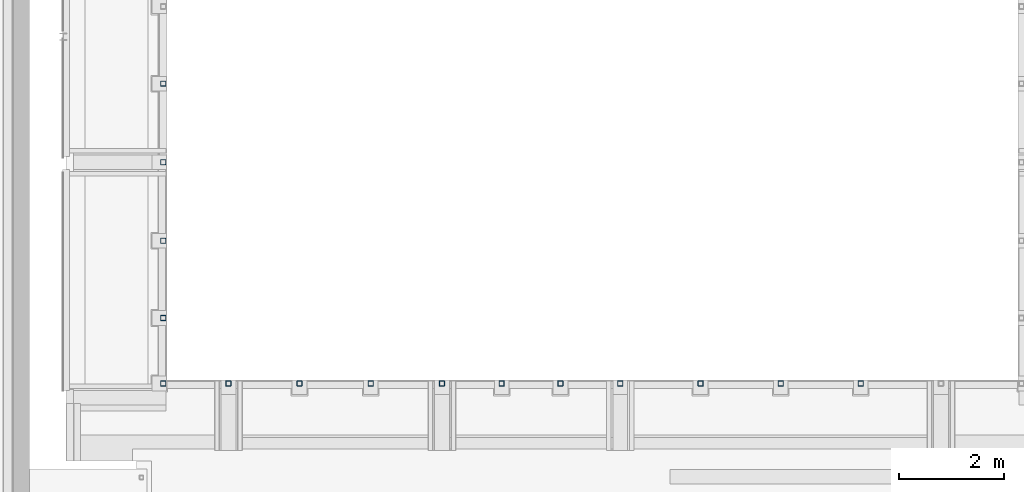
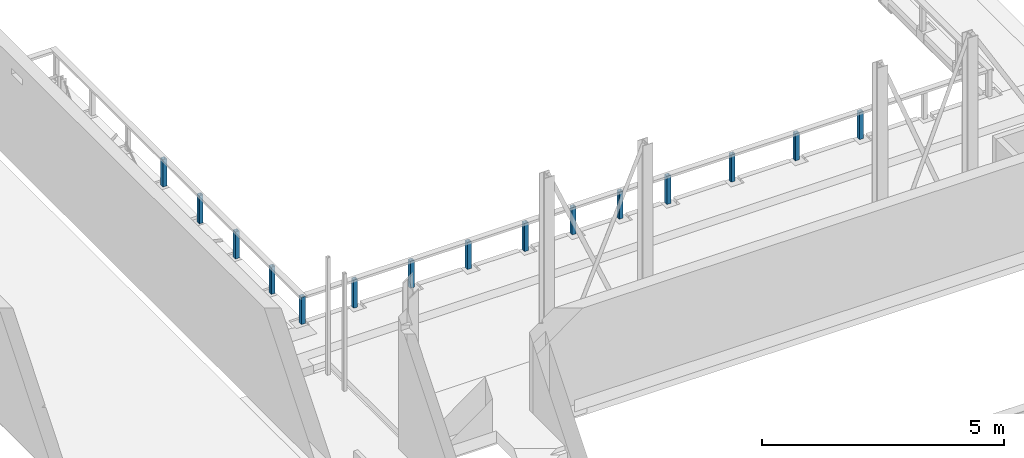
# One storey, part 10 of 68: 15 columns.
"""IFC2X3 building model written with IfcOpenShell, lengths in millimetres."""

from ifc_helpers import new_model, entity, si_unit, converted_unit, derived_unit, direction, frame, frame_2d, origin, place, context, subcontext, project, spatial, polyline, circle_curve, parameter, trimmed, segment, composite_curve, outline, extrude, source, transform, mapped, material, type_object, type_shapes, element, save


model = new_model("IFC2X3")

# Units and contexts
model_context = context("Model", 3, precision=0.01, world=origin(), true_north=direction((6.12303176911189e-17, 1.0)))
body_context = subcontext(model_context, "Body", "Model", "MODEL_VIEW")
ifc_project = project(units=[si_unit("LENGTHUNIT", "METRE", prefix="MILLI"), si_unit("AREAUNIT", "SQUARE_METRE", prefix="MILLI"), si_unit("VOLUMEUNIT", "CUBIC_METRE"), converted_unit("PLANEANGLEUNIT", "DEGREE", entity("IfcRatioMeasure", 0.0174532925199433), si_unit("PLANEANGLEUNIT", "RADIAN"), dimensions=[0, 0, 0, 0, 0, 0, 0]), si_unit("MASSUNIT", "GRAM", prefix="KILO"), derived_unit("MASSDENSITYUNIT", [(si_unit("MASSUNIT", "GRAM", prefix="KILO"), 1), (si_unit("LENGTHUNIT", "METRE"), -3)]), derived_unit("MOMENTOFINERTIAUNIT", [(si_unit("LENGTHUNIT", "METRE"), 4)]), si_unit("TIMEUNIT", "SECOND"), si_unit("FREQUENCYUNIT", "HERTZ"), si_unit("THERMODYNAMICTEMPERATUREUNIT", "DEGREE_CELSIUS"), derived_unit("THERMALTRANSMITTANCEUNIT", [(si_unit("MASSUNIT", "GRAM", prefix="KILO"), 1), (si_unit("THERMODYNAMICTEMPERATUREUNIT", "KELVIN"), -1), (si_unit("TIMEUNIT", "SECOND"), -3)]), derived_unit("VOLUMETRICFLOWRATEUNIT", [(si_unit("LENGTHUNIT", "METRE"), 3), (si_unit("TIMEUNIT", "SECOND"), -1)]), si_unit("ELECTRICCURRENTUNIT", "AMPERE"), si_unit("ELECTRICVOLTAGEUNIT", "VOLT"), si_unit("POWERUNIT", "WATT"), si_unit("FORCEUNIT", "NEWTON", prefix="KILO"), si_unit("ILLUMINANCEUNIT", "LUX"), si_unit("LUMINOUSFLUXUNIT", "LUMEN"), si_unit("LUMINOUSINTENSITYUNIT", "CANDELA"), derived_unit("USERDEFINED", [(si_unit("MASSUNIT", "GRAM", prefix="KILO"), -1), (si_unit("LENGTHUNIT", "METRE"), -2), (si_unit("TIMEUNIT", "SECOND"), 3), (si_unit("LUMINOUSFLUXUNIT", "LUMEN"), 1)]), derived_unit("LINEARVELOCITYUNIT", [(si_unit("LENGTHUNIT", "METRE"), 1), (si_unit("TIMEUNIT", "SECOND"), -1)]), si_unit("PRESSUREUNIT", "PASCAL"), derived_unit("USERDEFINED", [(si_unit("LENGTHUNIT", "METRE"), -2), (si_unit("MASSUNIT", "GRAM", prefix="KILO"), 1), (si_unit("TIMEUNIT", "SECOND"), -2)]), derived_unit("LINEARFORCEUNIT", [(si_unit("MASSUNIT", "GRAM", prefix="KILO"), 1), (si_unit("LENGTHUNIT", "METRE"), 1), (si_unit("TIMEUNIT", "SECOND"), -2), (si_unit("LENGTHUNIT", "METRE"), -1)]), derived_unit("PLANARFORCEUNIT", [(si_unit("MASSUNIT", "GRAM", prefix="KILO"), 1), (si_unit("LENGTHUNIT", "METRE"), 1), (si_unit("TIMEUNIT", "SECOND"), -2), (si_unit("LENGTHUNIT", "METRE"), -2)])], contexts=[model_context])

# Site, building, storey
site_placement = place(None, origin())
site = spatial("IfcSite", under=ifc_project, at=site_placement, Name="Theater aan de Parade", CompositionType="ELEMENT")
building_placement = place(site_placement, origin())
building = spatial("IfcBuilding", under=site, at=building_placement, Name="Theater aan de Parade", CompositionType="ELEMENT")
storey_placement = place(building_placement, frame((0.0, 0.0, 8750.0)))
storey = spatial("IfcBuildingStorey", under=building, at=storey_placement, Name="02 tweede verdieping", CompositionType="ELEMENT", Elevation=8750.0)

# Columns
ifc_material = material(Name="00_PBT_MAT_staal_S355")
column_type_1 = type_object("IfcColumnType", Name="28_PBT_SC_staal_koker:S355_K100x100x5", PredefinedType="COLUMN", material=ifc_material)
shared_shape_1 = source(origin(), body_context, "Body", "SweptSolid", [
    extrude(outline(composite_curve([segment(trimmed(circle_curve(frame_2d((-42.5, -42.5), x_axis=(1.0, 0.0)), 7.5), [parameter(180.0)], [parameter(270.0)], True, "PARAMETER"), True, "CONTINUOUS"), segment(polyline([(-42.5, -50.0), (42.5, -50.0)]), True, "CONTINUOUS"), segment(trimmed(circle_curve(frame_2d((42.5, -42.5), x_axis=(1.0, 0.0)), 7.5), [parameter(270.0)], [parameter(0.0)], True, "PARAMETER"), True, "CONTINUOUS"), segment(polyline([(50.0, -42.5), (50.0, 42.5)]), True, "CONTINUOUS"), segment(trimmed(circle_curve(frame_2d((42.5, 42.5), x_axis=(1.0, 0.0)), 7.5), [parameter(3.56222124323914e-13)], [parameter(90.0000000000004)], True, "PARAMETER"), True, "CONTINUOUS"), segment(polyline([(42.5, 50.0), (-42.5, 50.0)]), True, "CONTINUOUS"), segment(trimmed(circle_curve(frame_2d((-42.5, 42.5), x_axis=(1.0, 0.0)), 7.5), [parameter(90.0)], [parameter(180.0)], True, "PARAMETER"), True, "CONTINUOUS"), segment(polyline([(-50.0, 42.5), (-50.0, -42.5)]), True, "CONTINUOUS")], self_intersect=False), holes=[composite_curve([segment(trimmed(circle_curve(frame_2d((40.0, 40.0), x_axis=(1.0, 0.0)), 5.0), [parameter(0.0)], [parameter(90.0000000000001)], True, "PARAMETER"), False, "CONTINUOUS"), segment(polyline([(45.0, 40.0), (45.0, -40.0)]), True, "CONTINUOUS"), segment(trimmed(circle_curve(frame_2d((40.0, -40.0), x_axis=(1.0, 0.0)), 5.0), [parameter(269.999999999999)], [parameter(360.0)], True, "PARAMETER"), False, "CONTINUOUS"), segment(polyline([(40.0, -45.0), (-40.0, -45.0)]), True, "CONTINUOUS"), segment(trimmed(circle_curve(frame_2d((-40.0, -40.0), x_axis=(1.0, 0.0)), 5.0), [parameter(180.0)], [parameter(270.0)], True, "PARAMETER"), False, "CONTINUOUS"), segment(polyline([(-45.0, -40.0), (-45.0, 40.0)]), True, "CONTINUOUS"), segment(trimmed(circle_curve(frame_2d((-40.0, 40.0), x_axis=(1.0, 0.0)), 5.0), [parameter(89.9999999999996)], [parameter(180.0)], True, "PARAMETER"), False, "CONTINUOUS"), segment(polyline([(-40.0, 45.0), (40.0, 45.0)]), True, "CONTINUOUS")], self_intersect=False)]), frame((0.0, 0.0, 8695.0), z_axis=(0.0, 0.0, 1.0), x_axis=(-1.0, 0.0, 0.0)), (0.0, 0.0, 1.0), 708.000000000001),
])
type_shapes(column_type_1, [shared_shape_1])
column_placement = place(storey_placement, frame((17910.8570032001, 23568.2922985, -8750.0)))
element("IfcColumn", 1, at=column_placement, inside=storey, type_object=column_type_1, material=ifc_material, Name="28_PBT_SC_staal_koker:S355_K100x100x5", ObjectType="28_PBT_SC_staal_koker:S355_K100x100x5", context=body_context, shape_type="MappedRepresentation", body=[
    mapped(shared_shape_1, transform((0.0, 0.0, 0.0), scale=1.0)),
])
for number, where, z_axis, x_axis in (
    (2, (23232.8581798, 19343.3084468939, -8750.0), (0.0, 0.0, 1.0), (0.0, 1.0, 0.0)),
    (3, (19156.8570058, 19343.308446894, -8750.0), (0.0, 0.0, 1.0), (0.0, 1.0, 0.0)),
    (4, (26635.8581798, 19343.3084468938, -8750.0), (0.0, 0.0, 1.0), (0.0, 1.0, 0.0)),
):
    element("IfcColumn", number, at=place(storey_placement, frame(where, z_axis=z_axis, x_axis=x_axis)), inside=storey, type_object=column_type_1, material=ifc_material, Name="28_PBT_SC_staal_koker:S355_K100x100x5", ObjectType="28_PBT_SC_staal_koker:S355_K100x100x5", context=body_context, shape_type="MappedRepresentation", body=[
        mapped(shared_shape_1, transform((0.0, 0.0, 0.0), scale=1.0)),
    ])
column_type_2 = type_object("IfcColumnType", Name="28_PBT_SC_staal_koker:S355_K100x100x5", PredefinedType="COLUMN", material=ifc_material)
shared_shape_2 = source(origin(), body_context, "Body", "SweptSolid", [
    extrude(outline(composite_curve([segment(trimmed(circle_curve(frame_2d((-42.5, -42.5), x_axis=(1.0, 0.0)), 7.5), [parameter(180.0)], [parameter(270.0)], True, "PARAMETER"), True, "CONTINUOUS"), segment(polyline([(-42.5, -50.0), (42.5, -50.0)]), True, "CONTINUOUS"), segment(trimmed(circle_curve(frame_2d((42.5, -42.5), x_axis=(1.0, 0.0)), 7.5), [parameter(270.0)], [parameter(0.0)], True, "PARAMETER"), True, "CONTINUOUS"), segment(polyline([(50.0, -42.5), (50.0, 42.5)]), True, "CONTINUOUS"), segment(trimmed(circle_curve(frame_2d((42.5, 42.5), x_axis=(1.0, 0.0)), 7.5), [parameter(3.56222124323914e-13)], [parameter(90.0000000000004)], True, "PARAMETER"), True, "CONTINUOUS"), segment(polyline([(42.5, 50.0), (-42.5, 50.0)]), True, "CONTINUOUS"), segment(trimmed(circle_curve(frame_2d((-42.5, 42.5), x_axis=(1.0, 0.0)), 7.5), [parameter(90.0)], [parameter(180.0)], True, "PARAMETER"), True, "CONTINUOUS"), segment(polyline([(-50.0, 42.5), (-50.0, -42.5)]), True, "CONTINUOUS")], self_intersect=False), holes=[composite_curve([segment(trimmed(circle_curve(frame_2d((40.0, 40.0), x_axis=(1.0, 0.0)), 5.0), [parameter(0.0)], [parameter(90.0000000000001)], True, "PARAMETER"), False, "CONTINUOUS"), segment(polyline([(45.0, 40.0), (45.0, -40.0)]), True, "CONTINUOUS"), segment(trimmed(circle_curve(frame_2d((40.0, -40.0), x_axis=(1.0, 0.0)), 5.0), [parameter(269.999999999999)], [parameter(360.0)], True, "PARAMETER"), False, "CONTINUOUS"), segment(polyline([(40.0, -45.0), (-40.0, -45.0)]), True, "CONTINUOUS"), segment(trimmed(circle_curve(frame_2d((-40.0, -40.0), x_axis=(1.0, 0.0)), 5.0), [parameter(180.0)], [parameter(270.0)], True, "PARAMETER"), False, "CONTINUOUS"), segment(polyline([(-45.0, -40.0), (-45.0, 40.0)]), True, "CONTINUOUS"), segment(trimmed(circle_curve(frame_2d((-40.0, 40.0), x_axis=(1.0, 0.0)), 5.0), [parameter(89.9999999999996)], [parameter(180.0)], True, "PARAMETER"), False, "CONTINUOUS"), segment(polyline([(-40.0, 45.0), (40.0, 45.0)]), True, "CONTINUOUS")], self_intersect=False)]), frame((0.0, 0.0, 8720.0), z_axis=(0.0, 0.0, 1.0), x_axis=(-1.0, 0.0, 0.0)), (0.0, 0.0, 1.0), 683.000000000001),
])
type_shapes(column_type_2, [shared_shape_2])
for number, where in (
    (5, (17910.8570032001, 25068.2922985, -8750.0)),
    (6, (17910.8570032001, 22068.2922985, -8750.0)),
    (7, (17910.8570032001, 20593.2922985, -8750.0)),
    (8, (17910.8570032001, 19343.308446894, -8750.0)),
):
    element("IfcColumn", number, at=place(storey_placement, frame(where)), inside=storey, type_object=column_type_2, material=ifc_material, Name="28_PBT_SC_staal_koker:S355_K100x100x5", ObjectType="28_PBT_SC_staal_koker:S355_K100x100x5", context=body_context, shape_type="MappedRepresentation", body=[
        mapped(shared_shape_2, transform((0.0, 0.0, 0.0), scale=1.0)),
    ])
for number, where, z_axis, x_axis in (
    (9, (21872.8581798, 19343.3084468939, -8750.0), (0.0, 0.0, 1.0), (0.0, 1.0, 0.0)),
    (10, (20512.8581798, 19343.3084468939, -8750.0), (0.0, 0.0, 1.0), (0.0, 1.0, 0.0)),
    (11, (24372.8581798, 19343.3084468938, -8750.0), (0.0, 0.0, 1.0), (0.0, 1.0, 0.0)),
    (12, (25495.8581798, 19343.3084468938, -8750.0), (0.0, 0.0, 1.0), (0.0, 1.0, 0.0)),
):
    element("IfcColumn", number, at=place(storey_placement, frame(where, z_axis=z_axis, x_axis=x_axis)), inside=storey, type_object=column_type_2, material=ifc_material, Name="28_PBT_SC_staal_koker:S355_K100x100x5", ObjectType="28_PBT_SC_staal_koker:S355_K100x100x5", context=body_context, shape_type="MappedRepresentation", body=[
        mapped(shared_shape_2, transform((0.0, 0.0, 0.0), scale=1.0)),
    ])
column_type_3 = type_object("IfcColumnType", Name="28_PBT_SC_staal_koker:S355_K100x100x5", PredefinedType="COLUMN", material=ifc_material)
shared_shape_3 = source(origin(), body_context, "Body", "SweptSolid", [
    extrude(outline(composite_curve([segment(polyline([(-42.5, -50.0), (42.5, -50.0)]), True, "CONTINUOUS"), segment(trimmed(circle_curve(frame_2d((42.5, -42.5), x_axis=(0.0, 1.0)), 7.5), [parameter(180.0)], [parameter(270.0)], True, "PARAMETER"), True, "CONTINUOUS"), segment(polyline([(50.0, -42.5), (50.0, 42.5)]), True, "CONTINUOUS"), segment(trimmed(circle_curve(frame_2d((42.5, 42.5), x_axis=(0.0, 1.0)), 7.5), [parameter(270.0)], [parameter(360.0)], True, "PARAMETER"), True, "CONTINUOUS"), segment(polyline([(42.5, 50.0), (-42.5, 50.0)]), True, "CONTINUOUS"), segment(trimmed(circle_curve(frame_2d((-42.5, 42.5), x_axis=(0.0, 1.0)), 7.5), [parameter(0.0)], [parameter(90.0000000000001)], True, "PARAMETER"), True, "CONTINUOUS"), segment(polyline([(-50.0, 42.5), (-50.0, -42.5)]), True, "CONTINUOUS"), segment(trimmed(circle_curve(frame_2d((-42.5, -42.5), x_axis=(0.0, 1.0)), 7.5), [parameter(89.9999999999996)], [parameter(180.0)], True, "PARAMETER"), True, "CONTINUOUS")], self_intersect=False), holes=[composite_curve([segment(polyline([(45.0, 40.0), (45.0, -40.0)]), True, "CONTINUOUS"), segment(trimmed(circle_curve(frame_2d((40.0, -40.0), x_axis=(0.0, 1.0)), 5.0), [parameter(180.0)], [parameter(270.0)], True, "PARAMETER"), False, "CONTINUOUS"), segment(polyline([(40.0, -45.0), (-40.0, -45.0)]), True, "CONTINUOUS"), segment(trimmed(circle_curve(frame_2d((-40.0, -40.0), x_axis=(0.0, 1.0)), 5.0), [parameter(90.0)], [parameter(180.0)], True, "PARAMETER"), False, "CONTINUOUS"), segment(polyline([(-45.0, -40.0), (-45.0, 40.0)]), True, "CONTINUOUS"), segment(trimmed(circle_curve(frame_2d((-40.0, 40.0), x_axis=(0.0, 1.0)), 5.0), [parameter(4.07110999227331e-13)], [parameter(90.0000000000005)], True, "PARAMETER"), False, "CONTINUOUS"), segment(polyline([(-40.0, 45.0), (40.0, 45.0)]), True, "CONTINUOUS"), segment(trimmed(circle_curve(frame_2d((40.0, 40.0), x_axis=(0.0, 1.0)), 5.0), [parameter(270.0)], [parameter(0.0)], True, "PARAMETER"), False, "CONTINUOUS")], self_intersect=False)]), frame((0.0, 0.0, 8720.0), z_axis=(0.0, 0.0, 1.0), x_axis=(0.0, 1.0, 0.0)), (0.0, 0.0, 1.0), 683.000000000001),
])
type_shapes(column_type_3, [shared_shape_3])
for number, where, z_axis, x_axis in (
    (13, (28170.358192, 19343.3084468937, -8750.0), (0.0, 0.0, 1.0), (0.0, 1.0, 0.0)),
    (14, (29700.358192, 19343.3084468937, -8750.0), (0.0, 0.0, 1.0), (0.0, 1.0, 0.0)),
    (15, (31230.358192, 19343.3084468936, -8750.0), (0.0, 0.0, 1.0), (0.0, 1.0, 0.0)),
):
    element("IfcColumn", number, at=place(storey_placement, frame(where, z_axis=z_axis, x_axis=x_axis)), inside=storey, type_object=column_type_3, material=ifc_material, Name="28_PBT_SC_staal_koker:S355_K100x100x5", ObjectType="28_PBT_SC_staal_koker:S355_K100x100x5", context=body_context, shape_type="MappedRepresentation", body=[
        mapped(shared_shape_3, transform((0.0, 0.0, 0.0), scale=1.0)),
    ])

save(model, "model.ifc")
